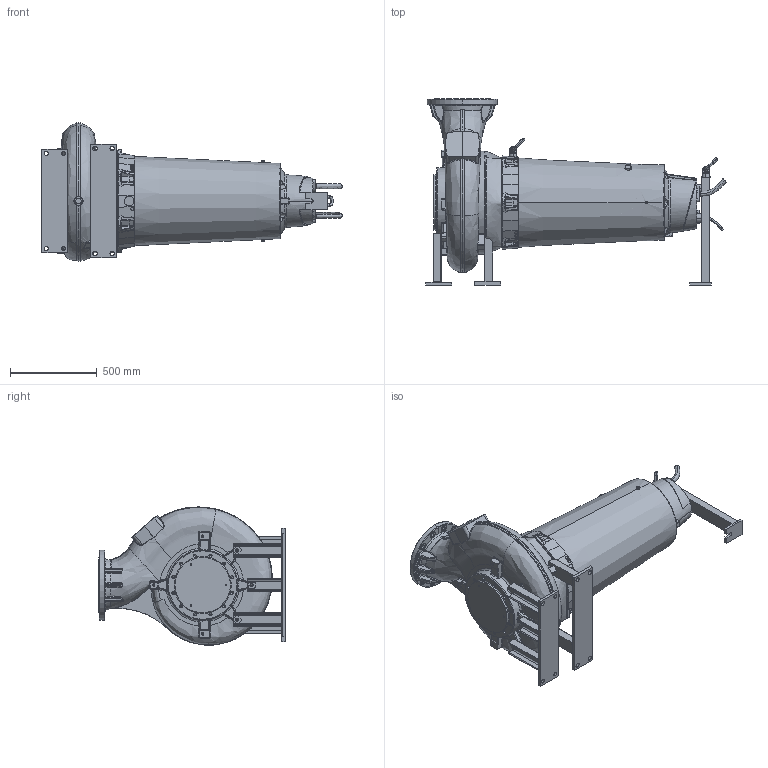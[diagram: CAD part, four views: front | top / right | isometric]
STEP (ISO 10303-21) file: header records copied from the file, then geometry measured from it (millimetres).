
FILE_DESCRIPTION (( 'STEP AP214' ), '1' );
FILE_NAME ('PE5_XFP250M-CH2_DRY HA_A_NG2.STEP', '2017-03-08T10:58:46', ( '' ), ( '' ), 'SwSTEP 2.0', 'SolidWorks 2017', '' );
FILE_SCHEMA (( 'AUTOMOTIVE_DESIGN' ));
Length unit declared in the file: millimetre
Products named in the file (1): PE5_XFP250M-CH2_DRY HA_A_NG2
Bounding box: 1736.08 x 1076.8 x 798.74 mm (x, y, z)
Volume: 337910818.7 mm3; surface area: 4867915.6 mm2
Topology: 6 solids, 8 shells, 1902 faces, 4704 edges, 2791 vertices
Faces by surface type: bspline 626, cylinder 486, plane 389, cone 194, torus 153, sphere 54
Entity records: 139332 total; most frequent: CARTESIAN_POINT 79049, ORIENTED_EDGE 9210, DIRECTION 6851, EDGE_CURVE 4605, AXIS2_PLACEMENT_3D 2792, VERTEX_POINT 2785, EDGE_LOOP 2032, UNCERTAINTY_MEASURE_WITH_UNIT 1910
